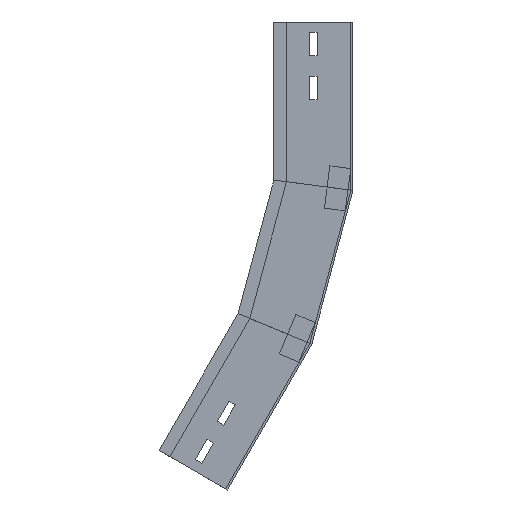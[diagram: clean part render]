
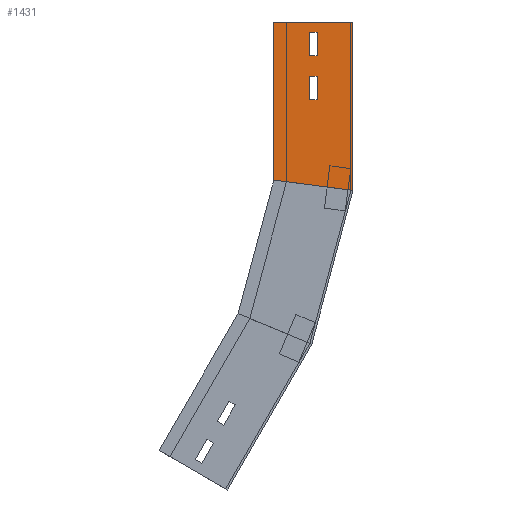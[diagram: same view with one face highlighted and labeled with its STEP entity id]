
A CAD part, left-side view. The second image highlights one B-rep face of the part: STEP entity #1431.
In plain terms, the highlighted planar face has unit normal (-1, 0, 0) as drawn and (1, 0, 0) by its records, which use the part's own axes.
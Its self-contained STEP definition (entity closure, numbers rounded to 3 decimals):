
#13 = LINE ( 'NONE', #122, #1076 ) ;
#14 = CARTESIAN_POINT ( 'NONE',  ( 0., 143.459, -418.342 ) ) ;
#30 = CARTESIAN_POINT ( 'NONE',  ( 0., 117.686, -359.702 ) ) ;
#39 = CARTESIAN_POINT ( 'NONE',  ( 0., 111.624, -363.202 ) ) ;
#43 = ORIENTED_EDGE ( 'NONE', *, *, #1040, .F. ) ;
#83 = DIRECTION ( 'NONE',  ( 0., 0.866, 0.5 ) ) ;
#92 = CARTESIAN_POINT ( 'NONE',  ( 0., 149.521, -414.842 ) ) ;
#107 = DIRECTION ( 'NONE',  ( 0., -0.866, -0.5 ) ) ;
#122 = CARTESIAN_POINT ( 'NONE',  ( 0., 128.686, -378.754 ) ) ;
#132 = ORIENTED_EDGE ( 'NONE', *, *, #468, .F. ) ;
#134 = CARTESIAN_POINT ( 'NONE',  ( 0., 128.686, -378.754 ) ) ;
#139 = CARTESIAN_POINT ( 'NONE',  ( 0., 39.082, -305.555 ) ) ;
#141 = ORIENTED_EDGE ( 'NONE', *, *, #998, .F. ) ;
#171 = VECTOR ( 'NONE', #1206, 1000. ) ;
#177 = VERTEX_POINT ( 'NONE', #134 ) ;
#178 = EDGE_CURVE ( 'NONE', #177, #1221, #13, .T. ) ;
#228 = VECTOR ( 'NONE', #1234, 1000. ) ;
#237 = VECTOR ( 'NONE', #947, 1000. ) ;
#306 = VECTOR ( 'NONE', #1383, 1000. ) ;
#327 = ORIENTED_EDGE ( 'NONE', *, *, #912, .F. ) ;
#333 = CARTESIAN_POINT ( 'NONE',  ( 0., 104.034, -268.055 ) ) ;
#340 = EDGE_CURVE ( 'NONE', #570, #895, #509, .T. ) ;
#356 = DIRECTION ( 'NONE',  ( 0., 0.5, -0.866 ) ) ;
#414 = CARTESIAN_POINT ( 'NONE',  ( 0., 132.459, -399.289 ) ) ;
#434 = EDGE_LOOP ( 'NONE', ( #761, #488, #327, #43 ) ) ;
#455 = VECTOR ( 'NONE', #356, 1000. ) ;
#468 = EDGE_CURVE ( 'NONE', #1064, #1310, #1125, .T. ) ;
#471 = LINE ( 'NONE', #937, #455 ) ;
#488 = ORIENTED_EDGE ( 'NONE', *, *, #571, .F. ) ;
#491 = VERTEX_POINT ( 'NONE', #552 ) ;
#509 = LINE ( 'NONE', #139, #171 ) ;
#511 = EDGE_CURVE ( 'NONE', #1317, #570, #758, .T. ) ;
#516 = LINE ( 'NONE', #1090, #753 ) ;
#543 = VERTEX_POINT ( 'NONE', #414 ) ;
#552 = CARTESIAN_POINT ( 'NONE',  ( 0., 122.624, -382.254 ) ) ;
#570 = VERTEX_POINT ( 'NONE', #996 ) ;
#571 = EDGE_CURVE ( 'NONE', #491, #177, #1444, .T. ) ;
#585 = LINE ( 'NONE', #1413, #306 ) ;
#602 = EDGE_LOOP ( 'NONE', ( #942, #1059, #980, #1112 ) ) ;
#618 = VECTOR ( 'NONE', #764, 1000. ) ;
#642 = CARTESIAN_POINT ( 'NONE',  ( 0., 128.686, -378.754 ) ) ;
#684 = VERTEX_POINT ( 'NONE', #1149 ) ;
#719 = CARTESIAN_POINT ( 'NONE',  ( 0., 149.521, -414.842 ) ) ;
#724 = CARTESIAN_POINT ( 'NONE',  ( 0., 118.932, -443.859 ) ) ;
#728 = EDGE_CURVE ( 'NONE', #1317, #684, #1381, .T. ) ;
#736 = EDGE_CURVE ( 'NONE', #543, #1064, #910, .T. ) ;
#742 = CARTESIAN_POINT ( 'NONE',  ( 0., 108.971, -276.606 ) ) ;
#753 = VECTOR ( 'NONE', #804, 1000. ) ;
#758 = LINE ( 'NONE', #1330, #1368 ) ;
#761 = ORIENTED_EDGE ( 'NONE', *, *, #178, .F. ) ;
#764 = DIRECTION ( 'NONE',  ( 0., 0.866, 0.5 ) ) ;
#792 = DIRECTION ( 'NONE',  ( -1., 0., 0. ) ) ;
#804 = DIRECTION ( 'NONE',  ( 0., -0.866, -0.5 ) ) ;
#810 = VECTOR ( 'NONE', #1022, 1000. ) ;
#856 = CARTESIAN_POINT ( 'NONE',  ( 0., 117.686, -359.702 ) ) ;
#883 = CARTESIAN_POINT ( 'NONE',  ( 0., 39.082, -305.555 ) ) ;
#895 = VERTEX_POINT ( 'NONE', #724 ) ;
#901 = FACE_BOUND ( 'NONE', #1000, .T. ) ;
#910 = LINE ( 'NONE', #1359, #810 ) ;
#912 = EDGE_CURVE ( 'NONE', #953, #491, #471, .T. ) ;
#935 = LINE ( 'NONE', #719, #237 ) ;
#937 = CARTESIAN_POINT ( 'NONE',  ( 0., 122.624, -382.254 ) ) ;
#942 = ORIENTED_EDGE ( 'NONE', *, *, #511, .T. ) ;
#947 = DIRECTION ( 'NONE',  ( 0., -0.5, 0.866 ) ) ;
#953 = VERTEX_POINT ( 'NONE', #39 ) ;
#970 = VECTOR ( 'NONE', #107, 1000. ) ;
#980 = ORIENTED_EDGE ( 'NONE', *, *, #1052, .T. ) ;
#985 = CARTESIAN_POINT ( 'NONE',  ( 0., 149.521, -414.842 ) ) ;
#994 = DIRECTION ( 'NONE',  ( 0., 0., 1. ) ) ;
#996 = CARTESIAN_POINT ( 'NONE',  ( 0., 39.082, -305.555 ) ) ;
#998 = EDGE_CURVE ( 'NONE', #1096, #543, #516, .T. ) ;
#1000 = EDGE_LOOP ( 'NONE', ( #1392, #132, #1016, #141 ) ) ;
#1016 = ORIENTED_EDGE ( 'NONE', *, *, #736, .F. ) ;
#1020 = FACE_OUTER_BOUND ( 'NONE', #602, .T. ) ;
#1022 = DIRECTION ( 'NONE',  ( 0., 0.5, -0.866 ) ) ;
#1040 = EDGE_CURVE ( 'NONE', #1221, #953, #1148, .T. ) ;
#1045 = DIRECTION ( 'NONE',  ( 0., -0.5, 0.866 ) ) ;
#1052 = EDGE_CURVE ( 'NONE', #895, #684, #585, .T. ) ;
#1059 = ORIENTED_EDGE ( 'NONE', *, *, #340, .T. ) ;
#1064 = VERTEX_POINT ( 'NONE', #14 ) ;
#1076 = VECTOR ( 'NONE', #1045, 1000. ) ;
#1090 = CARTESIAN_POINT ( 'NONE',  ( 0., 138.521, -395.789 ) ) ;
#1096 = VERTEX_POINT ( 'NONE', #1270 ) ;
#1099 = DIRECTION ( 'NONE',  ( 0., -0.924, -0.383 ) ) ;
#1112 = ORIENTED_EDGE ( 'NONE', *, *, #728, .F. ) ;
#1125 = LINE ( 'NONE', #92, #1384 ) ;
#1132 = PLANE ( 'NONE',  #1315 ) ;
#1148 = LINE ( 'NONE', #30, #970 ) ;
#1149 = CARTESIAN_POINT ( 'NONE',  ( 0., 183.884, -406.359 ) ) ;
#1161 = EDGE_CURVE ( 'NONE', #1310, #1096, #935, .T. ) ;
#1206 = DIRECTION ( 'NONE',  ( 0., 0.5, -0.866 ) ) ;
#1221 = VERTEX_POINT ( 'NONE', #856 ) ;
#1234 = DIRECTION ( 'NONE',  ( 0., 0.5, -0.866 ) ) ;
#1270 = CARTESIAN_POINT ( 'NONE',  ( 0., 138.521, -395.789 ) ) ;
#1310 = VERTEX_POINT ( 'NONE', #985 ) ;
#1315 = AXIS2_PLACEMENT_3D ( 'NONE', #883, #792, #994 ) ;
#1317 = VERTEX_POINT ( 'NONE', #742 ) ;
#1330 = CARTESIAN_POINT ( 'NONE',  ( 0., 57.291, -298.012 ) ) ;
#1359 = CARTESIAN_POINT ( 'NONE',  ( 0., 143.459, -418.342 ) ) ;
#1368 = VECTOR ( 'NONE', #1099, 1000. ) ;
#1381 = LINE ( 'NONE', #333, #228 ) ;
#1383 = DIRECTION ( 'NONE',  ( 0., 0.866, 0.5 ) ) ;
#1384 = VECTOR ( 'NONE', #83, 1000. ) ;
#1392 = ORIENTED_EDGE ( 'NONE', *, *, #1161, .F. ) ;
#1413 = CARTESIAN_POINT ( 'NONE',  ( 0., 118.932, -443.859 ) ) ;
#1431 = ADVANCED_FACE ( 'NONE', ( #901, #1455, #1020 ), #1132, .F. ) ;
#1444 = LINE ( 'NONE', #642, #618 ) ;
#1455 = FACE_BOUND ( 'NONE', #434, .T. ) ;
